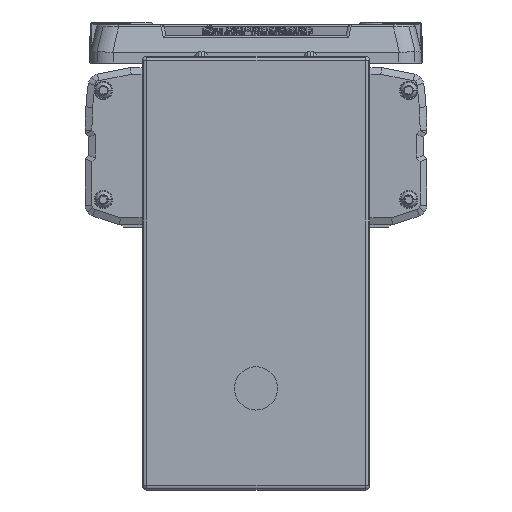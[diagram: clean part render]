
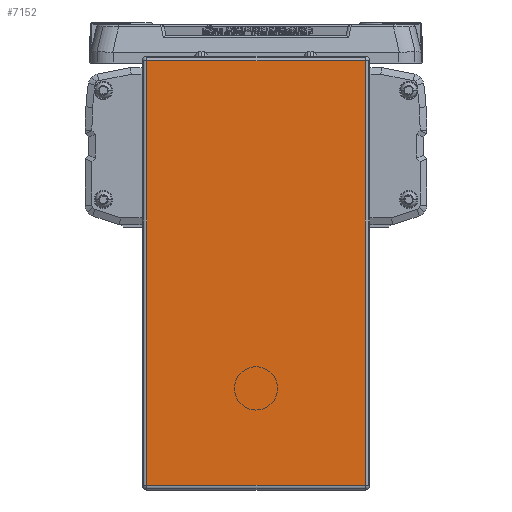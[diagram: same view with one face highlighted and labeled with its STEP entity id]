
A CAD part, left-side view. The second image highlights one B-rep face of the part: STEP entity #7152.
In plain terms, the highlighted planar face has unit normal (-1, 0, 0).
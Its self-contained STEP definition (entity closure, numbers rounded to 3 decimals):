
#7152=ADVANCED_FACE('',(#14687),#14688,.T.);
#14687=FACE_OUTER_BOUND('',#23868,.T.);
#14688=PLANE('',#23869);
#23868=EDGE_LOOP('',(#44196,#44197,#44198,#44199));
#23869=AXIS2_PLACEMENT_3D('',#44200,#44201,#44202);
#44196=ORIENTED_EDGE('',*,*,#53520,.F.);
#44197=ORIENTED_EDGE('',*,*,#52051,.F.);
#44198=ORIENTED_EDGE('',*,*,#53767,.F.);
#44199=ORIENTED_EDGE('',*,*,#49478,.F.);
#44200=CARTESIAN_POINT('',(-45.,0.,-64.2));
#44201=DIRECTION('',(-1.0,0.,0.));
#44202=DIRECTION('',(0.,1.0,0.));
#49478=EDGE_CURVE('',#60006,#60008,#60009,.T.);
#52051=EDGE_CURVE('',#63937,#58031,#63939,.T.);
#53520=EDGE_CURVE('',#58031,#60006,#65874,.T.);
#53767=EDGE_CURVE('',#60008,#63937,#66164,.T.);
#58031=VERTEX_POINT('',#72495);
#60006=VERTEX_POINT('',#75307);
#60008=VERTEX_POINT('',#75309);
#60009=LINE('',#75310,#75311);
#63937=VERTEX_POINT('',#80898);
#63939=LINE('',#80900,#80901);
#65874=LINE('',#83715,#83716);
#66164=LINE('',#84537,#84538);
#72495=CARTESIAN_POINT('',(-45.,48.,29.));
#75307=CARTESIAN_POINT('',(-45.,-48.,29.));
#75309=CARTESIAN_POINT('',(-45.,-48.,-157.4));
#75310=CARTESIAN_POINT('',(-45.,-48.,-64.2));
#75311=VECTOR('',#90487,10.0);
#80898=CARTESIAN_POINT('',(-45.,48.,-157.4));
#80900=CARTESIAN_POINT('',(-45.,48.,-64.2));
#80901=VECTOR('',#94098,10.0);
#83715=CARTESIAN_POINT('',(-45.,0.,29.));
#83716=VECTOR('',#96011,10.0);
#84537=CARTESIAN_POINT('',(-45.,0.,-157.4));
#84538=VECTOR('',#96258,10.0);
#90487=DIRECTION('',(0.,0.,-1.0));
#94098=DIRECTION('',(0.,0.,1.0));
#96011=DIRECTION('',(0.0,-1.0,0.));
#96258=DIRECTION('',(0.0,1.0,0.));
